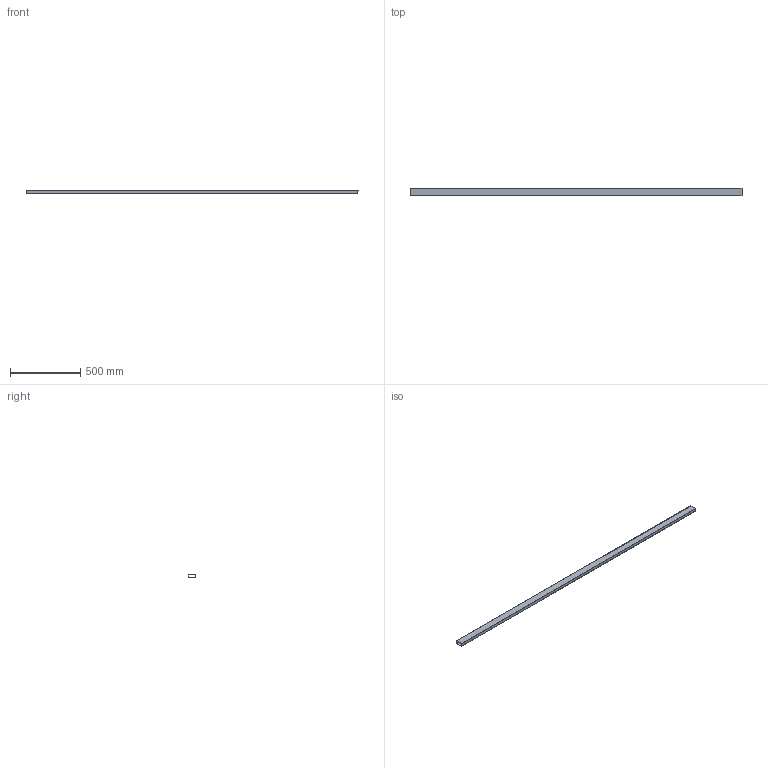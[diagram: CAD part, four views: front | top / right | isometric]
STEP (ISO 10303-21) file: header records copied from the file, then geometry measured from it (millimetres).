
FILE_DESCRIPTION(/* description */ (''),/* implementation_level */ '2;1');
FILE_NAME(/* name */ 'Pos115-Koker 50x20x2 EN 10219-2-S235JRH-1st',/* time_stamp */ '2024-08-06T13:49:48+02:00',/* author */ (''),/* organization */ (''),/* preprocessor_version */ 'ST-DEVELOPER v16.5',/* originating_system */ 'HiCAD 2024 2901.2 Build 361',/* authorisation */ '');
FILE_SCHEMA (('AUTOMOTIVE_DESIGN { 1 0 10303 214 1 1 1 1 }'));
Length unit declared in the file: millimetre
Products named in the file (1): Pos115-Koker 50x20x2 EN 10219-2-S235JRH-1st
Bounding box: 2359.38 x 50 x 20 mm (x, y, z)
Volume: 621007.3 mm3; surface area: 621567.4 mm2
Topology: 1 solids, 1 shells, 10 faces, 24 edges, 16 vertices
Faces by surface type: plane 10
Entity records: 550 total; most frequent: CARTESIAN_POINT 50, PRESENTATION_STYLE_ASSIGNMENT 49, COLOUR_RGB 49, DRAUGHTING_PRE_DEFINED_CURVE_FONT 48, CURVE_STYLE 48, OVER_RIDING_STYLED_ITEM 48, ORIENTED_EDGE 48, DIRECTION 44
